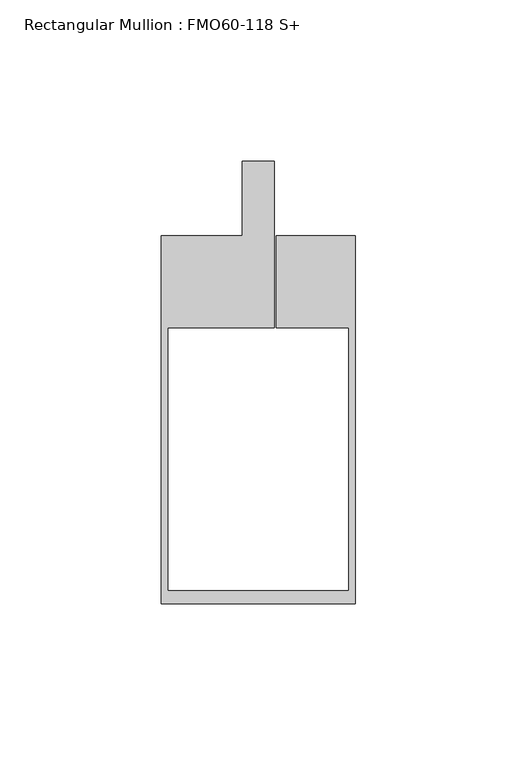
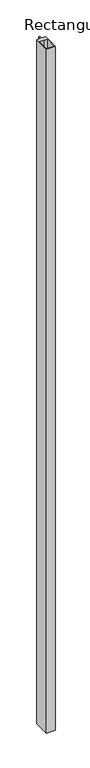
"""IFC4 building model written with IfcOpenShell, lengths in millimetres: member geometry, Rectangular Mullion : FMO60-118 S+."""

from ifc_helpers import new_model, si_unit, origin, place, context, project, spatial, faceted_brep, source, transform, mapped, element, save


def rectangular_mullion_fmo60_118_s_0fe06a43(model_context):
    return source(origin(), model_context, "Body", "Brep", [
        faceted_brep([(-5.0018696, 0.2, 0.0), (-29.9981304, 0.2, 0.0), (-29.9981304, -113.8058778, 0.0), (29.9981304, -113.8058778, 0.0), (29.9981304, 0.2, 0.0), (5.4978528, 0.2, 0.0), (5.4978528, -28.3014, 0.0), (27.9981304, -28.3014, 0.0), (27.9981304, -109.8058778, 0.0), (-28.0018696, -109.8058778, 0.0), (-28.0018696, -28.3014, 0.0), (4.9978528, -28.3014, 0.0), (4.9978528, 23.1914962, 0.0), (-5.0018696, 23.1914866, 0.0), (-5.0018696, 0.2, -5000.0), (-5.0018696, 23.1914866, -5000.0), (4.9978528, 23.1914866, -5000.0), (4.9978528, -28.3014, -5000.0), (-28.0018696, -28.3014, -5000.0), (-28.0018696, -109.8058778, -5000.0), (27.9981304, -109.8058778, -5000.0), (27.9981304, -28.3014, -5000.0), (5.4978528, -28.3014, -5000.0), (5.4978528, 0.2, -5000.0), (29.9981304, 0.2, -5000.0), (29.9981304, -113.8058778, -5000.0), (-29.9981304, -113.8058778, -5000.0), (-29.9981304, 0.2, -5000.0)], [[[0, 1, 2, 3, 4, 5, 6, 7, 8, 9, 10, 11, 12, 13]], [[14, 15, 16, 17, 18, 19, 20, 21, 22, 23, 24, 25, 26, 27]], [[0, 13, 15, 14]], [[1, 0, 14, 27]], [[2, 1, 27, 26]], [[3, 2, 26, 25]], [[4, 3, 25, 24]], [[5, 4, 24, 23]], [[6, 5, 23, 22]], [[7, 6, 22, 21]], [[8, 7, 21, 20]], [[9, 8, 20, 19]], [[10, 9, 19, 18]], [[11, 10, 18, 17]], [[12, 11, 17, 16]], [[13, 12, 16, 15]]]),
    ])


if __name__ == "__main__":
    model = new_model("IFC4")
    model_context = context("Model", 3, world=origin())
    ifc_project = project(units=[si_unit("LENGTHUNIT", "METRE", prefix="MILLI")], contexts=[model_context])
    site = spatial("IfcSite", under=ifc_project)
    building = spatial("IfcBuilding", under=site)
    placement = place(None, origin())
    rectangular_mullion_fmo60_118_s_shape = rectangular_mullion_fmo60_118_s_0fe06a43(model_context)
    element("IfcMember", 1, ObjectType="Rectangular Mullion : FMO60-118 S+", at=placement, inside=building, context=model_context, shape_type="MappedRepresentation", body=[
        mapped(rectangular_mullion_fmo60_118_s_shape, transform((0.0, 0.0, 0.0), x_axis=(1.0, 0.0, 0.0), y_axis=(0.0, 1.0, 0.0), z_axis=(0.0, 0.0, 1.0))),
    ])
    save(model, "model.ifc")
